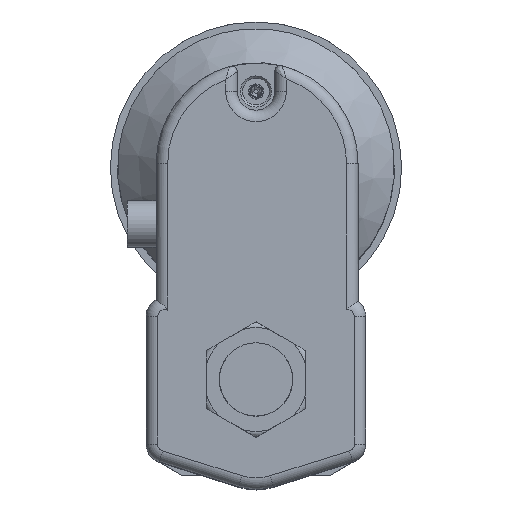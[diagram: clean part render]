
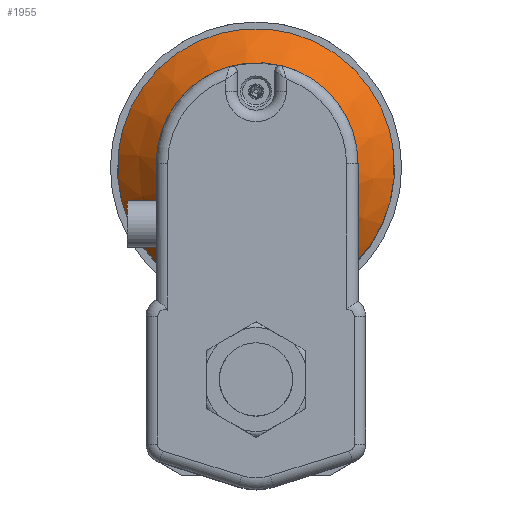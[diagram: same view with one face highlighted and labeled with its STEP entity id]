
A CAD part, top view. The second image highlights one B-rep face of the part: STEP entity #1955.
In plain terms, the highlighted conical face has half-angle 45 degrees and reference radius 48 mm.
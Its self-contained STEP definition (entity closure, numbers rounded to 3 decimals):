
#296 = AXIS2_PLACEMENT_3D ( 'NONE', #5703, #5704, #5698 ) ;
#763 = CIRCLE ( 'NONE', #9547, 48. ) ;
#765 = CIRCLE ( 'NONE', #9548, 34. ) ;
#1406 = ORIENTED_EDGE ( 'NONE', *, *, #1605, .F. ) ;
#1407 = ORIENTED_EDGE ( 'NONE', *, *, #1604, .T. ) ;
#1408 = ORIENTED_EDGE ( 'NONE', *, *, #1661, .T. ) ;
#1604 = EDGE_CURVE ( 'NONE', #3177, #3165, #763, .T. ) ;
#1605 = EDGE_CURVE ( 'NONE', #8564, #8564, #765, .T. ) ;
#1661 = EDGE_CURVE ( 'NONE', #3165, #3177, #8933, .T. ) ;
#1955 = ADVANCED_FACE ( 'NONE', ( #7129, #7126 ), #7123, .T. ) ;
#3165 = VERTEX_POINT ( 'NONE', #8127 ) ;
#3177 = VERTEX_POINT ( 'NONE', #8139 ) ;
#4429 = CARTESIAN_POINT ( 'NONE',  ( 0., 73.9, 53.5 ) ) ;
#4431 = DIRECTION ( 'NONE',  ( 0., 0., 1. ) ) ;
#4432 = DIRECTION ( 'NONE',  ( 0., -1., 0. ) ) ;
#4728 = CARTESIAN_POINT ( 'NONE',  ( 27.908, 34.847, 53.5 ) ) ;
#4729 = CARTESIAN_POINT ( 'NONE',  ( 25.745, 34.688, 54.629 ) ) ;
#4730 = CARTESIAN_POINT ( 'NONE',  ( 23.55, 34.529, 55.668 ) ) ;
#4731 = CARTESIAN_POINT ( 'NONE',  ( 19.078, 34.224, 57.523 ) ) ;
#4732 = CARTESIAN_POINT ( 'NONE',  ( 16.801, 34.078, 58.337 ) ) ;
#4733 = CARTESIAN_POINT ( 'NONE',  ( 13.307, 33.888, 59.348 ) ) ;
#4734 = CARTESIAN_POINT ( 'NONE',  ( 12.13, 33.83, 59.65 ) ) ;
#4735 = CARTESIAN_POINT ( 'NONE',  ( 9.746, 33.726, 60.177 ) ) ;
#4736 = CARTESIAN_POINT ( 'NONE',  ( 8.537, 33.68, 60.402 ) ) ;
#4737 = CARTESIAN_POINT ( 'NONE',  ( 4.908, 33.569, 60.942 ) ) ;
#4738 = CARTESIAN_POINT ( 'NONE',  ( 2.477, 33.529, 61.127 ) ) ;
#4739 = CARTESIAN_POINT ( 'NONE',  ( -1.188, 33.529, 61.13 ) ) ;
#4740 = CARTESIAN_POINT ( 'NONE',  ( -2.415, 33.538, 61.085 ) ) ;
#4741 = CARTESIAN_POINT ( 'NONE',  ( -4.863, 33.577, 60.903 ) ) ;
#4742 = CARTESIAN_POINT ( 'NONE',  ( -6.081, 33.605, 60.767 ) ) ;
#4743 = CARTESIAN_POINT ( 'NONE',  ( -8.505, 33.679, 60.407 ) ) ;
#4744 = CARTESIAN_POINT ( 'NONE',  ( -9.715, 33.725, 60.183 ) ) ;
#4745 = CARTESIAN_POINT ( 'NONE',  ( -12.101, 33.829, 59.657 ) ) ;
#4746 = CARTESIAN_POINT ( 'NONE',  ( -13.28, 33.887, 59.356 ) ) ;
#4747 = CARTESIAN_POINT ( 'NONE',  ( -16.779, 34.077, 58.344 ) ) ;
#4748 = CARTESIAN_POINT ( 'NONE',  ( -19.06, 34.223, 57.53 ) ) ;
#4749 = CARTESIAN_POINT ( 'NONE',  ( -22.421, 34.452, 56.137 ) ) ;
#4750 = CARTESIAN_POINT ( 'NONE',  ( -23.531, 34.53, 55.644 ) ) ;
#4751 = CARTESIAN_POINT ( 'NONE',  ( -25.733, 34.688, 54.609 ) ) ;
#4752 = CARTESIAN_POINT ( 'NONE',  ( -26.826, 34.768, 54.065 ) ) ;
#4758 = CARTESIAN_POINT ( 'NONE',  ( -27.908, 34.847, 53.5 ) ) ;
#4884 = DIRECTION ( 'NONE',  ( 0., 0., 1. ) ) ;
#5022 = DIRECTION ( 'NONE',  ( 0., -1., 0. ) ) ;
#5023 = CARTESIAN_POINT ( 'NONE',  ( 0., 73.9, 67.5 ) ) ;
#5698 = DIRECTION ( 'NONE',  ( 0., 1., 0. ) ) ;
#5703 = CARTESIAN_POINT ( 'NONE',  ( 0., 73.9, 53.5 ) ) ;
#5704 = DIRECTION ( 'NONE',  ( 0., 0., -1. ) ) ;
#7123 = CONICAL_SURFACE ( 'NONE', #296, 48., 0.785 ) ;
#7126 = FACE_OUTER_BOUND ( 'NONE', #9190, .T. ) ;
#7129 = FACE_BOUND ( 'NONE', #9133, .T. ) ;
#8127 = CARTESIAN_POINT ( 'NONE',  ( -27.908, 34.847, 53.5 ) ) ;
#8139 = CARTESIAN_POINT ( 'NONE',  ( 27.908, 34.847, 53.5 ) ) ;
#8564 = VERTEX_POINT ( 'NONE', #8565 ) ;
#8565 = CARTESIAN_POINT ( 'NONE',  ( 0., 39.9, 67.5 ) ) ;
#8933 = B_SPLINE_CURVE_WITH_KNOTS ( 'NONE', 3,
 ( #4758, #4752, #4751, #4750, #4749, #4748, #4747, #4746, #4745, #4744, #4743, #4742, #4741, #4740, #4739, #4738, #4737, #4736, #4735, #4734, #4733, #4732, #4731, #4730, #4729, #4728 ),
 .UNSPECIFIED., .F., .F.,
 ( 4, 2, 2, 2, 2, 2, 2, 2, 2, 2, 2, 2, 4 ),
 ( 0., 0.004, 0.007, 0.015, 0.018, 0.022, 0.026, 0.029, 0.037, 0.04, 0.044, 0.051, 0.059 ),
 .UNSPECIFIED. ) ;
#9133 = EDGE_LOOP ( 'NONE', ( #1406 ) ) ;
#9190 = EDGE_LOOP ( 'NONE', ( #1407, #1408 ) ) ;
#9547 = AXIS2_PLACEMENT_3D ( 'NONE', #4429, #4884, #5022 ) ;
#9548 = AXIS2_PLACEMENT_3D ( 'NONE', #5023, #4431, #4432 ) ;
